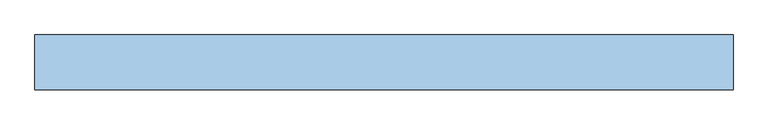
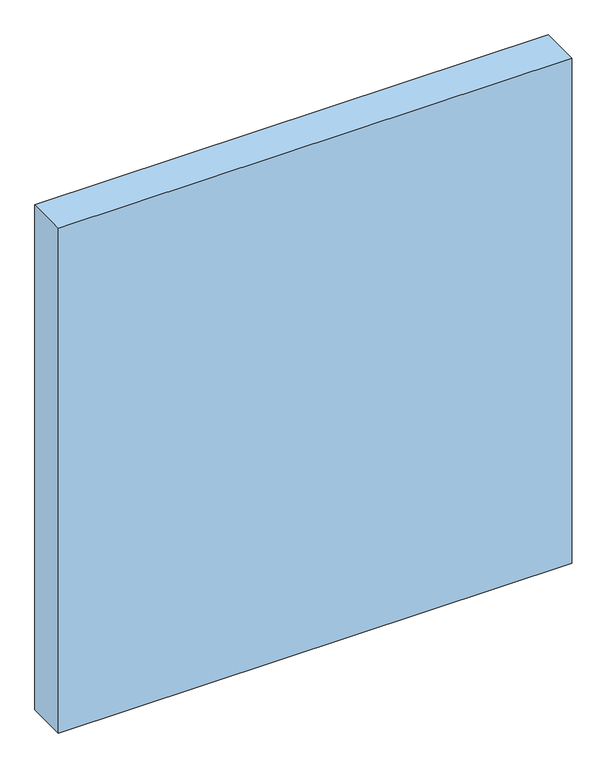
"""IFC4 building model written with IfcOpenShell, lengths in millimetres: window geometry, Dr_Проем-Четверти_об модель : ОК."""

from ifc_helpers import new_model, si_unit, frame, origin, place, context, project, spatial, polyline, outline, extrude, source, transform, mapped, element, save


def window_554af9b8(model_context):
    return source(origin(), model_context, "Body", "SweptSolid", [
        extrude(outline(polyline([(1405.0, 100.0), (1405.0, -100.0), (-1135.0, -100.0), (-1135.0, 100.0), (1405.0, 100.0)])), frame((0.0, 0.0, -70.0), z_axis=(0.0, 0.0, 1.0), x_axis=(1.0, 0.0, 0.0)), (0.0, 0.0, 1.0), 2640.0),
    ])


if __name__ == "__main__":
    model = new_model("IFC4")
    model_context = context("Model", 3, world=origin())
    ifc_project = project(units=[si_unit("LENGTHUNIT", "METRE", prefix="MILLI")], contexts=[model_context])
    site = spatial("IfcSite", under=ifc_project)
    building = spatial("IfcBuilding", under=site)
    placement = place(None, origin())
    window_shape = window_554af9b8(model_context)
    element("IfcWindow", 1, ObjectType="Dr_Проем-Четверти_об модель : ОК", at=placement, inside=building, context=model_context, shape_type="MappedRepresentation", body=[
        mapped(window_shape, transform((0.0, 0.0, 0.0), x_axis=(1.0, 0.0, 0.0), y_axis=(0.0, 1.0, 0.0), z_axis=(0.0, 0.0, 1.0))),
    ])
    save(model, "model.ifc")
